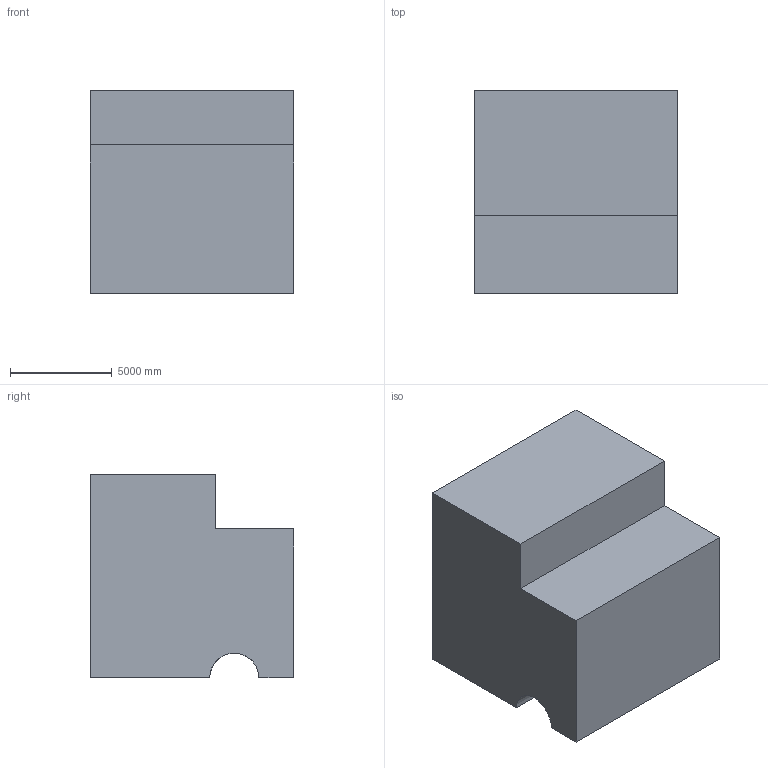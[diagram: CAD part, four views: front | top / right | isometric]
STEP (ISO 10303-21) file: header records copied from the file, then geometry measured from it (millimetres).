
FILE_DESCRIPTION (( 'STEP AP203' ), '1' );
FILE_NAME ('360.STEP', '2022-07-28T14:28:57', ( 'user' ), ( '' ), 'SwSTEP 2.0', 'SolidWorks 2021', '' );
FILE_SCHEMA (( 'CONFIG_CONTROL_DESIGN' ));
Length unit declared in the file: centimetre
Products named in the file (1): 360
Bounding box: 10000 x 10000 x 10000 mm (x, y, z)
Volume: 786270891922.8 mm3; surface area: 656179910.5 mm2
Topology: 1 solids, 1 shells, 18 faces, 48 edges, 32 vertices
Faces by surface type: plane 17, cylinder 1
Entity records: 633 total; most frequent: CARTESIAN_POINT 99, ORIENTED_EDGE 96, DIRECTION 90, EDGE_CURVE 48, VECTOR 44, LINE 44, VERTEX_POINT 32, AXIS2_PLACEMENT_3D 23
